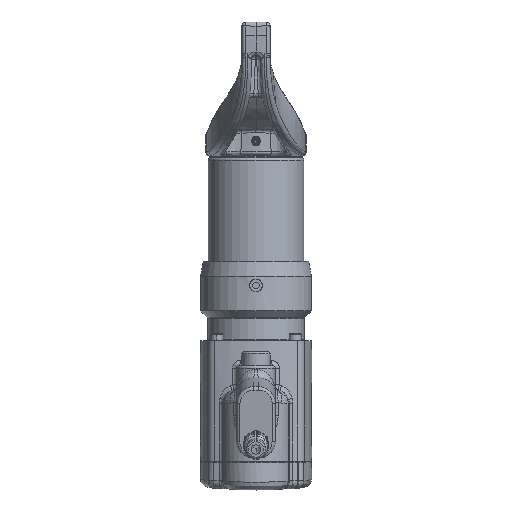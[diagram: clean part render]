
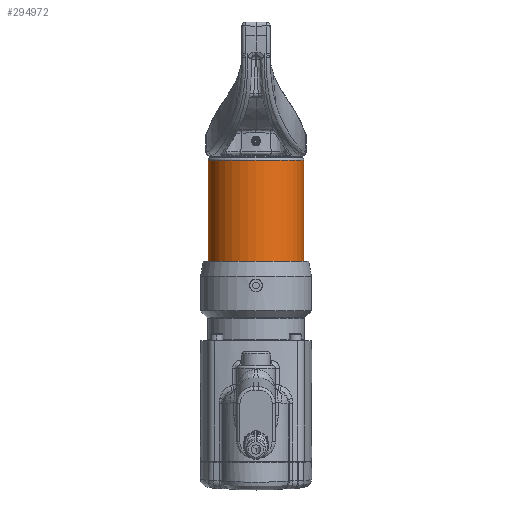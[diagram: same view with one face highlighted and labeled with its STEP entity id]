
A CAD part, front view. The second image highlights one B-rep face of the part: STEP entity #294972.
In plain terms, the highlighted cylindrical face has radius 36.195 mm (diameter 72.39 mm), a partial arc.
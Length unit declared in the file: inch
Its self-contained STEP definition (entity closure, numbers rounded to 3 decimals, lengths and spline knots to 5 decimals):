
#255819=CARTESIAN_POINT('',(0.,0.,2.54405));
#255820=DIRECTION('',(0.,0.,-1.));
#255821=DIRECTION('',(1.,0.,0.));
#255822=AXIS2_PLACEMENT_3D('',#255819,#255820,#255821);
#255829=DIRECTION('',(0.,0.,1.));
#255830=VECTOR('',#255829,3.0799);
#255831=CARTESIAN_POINT('',(-1.425,0.,2.54405));
#255832=LINE('',#255831,#255830);
#255833=DIRECTION('',(0.,0.,-1.));
#255834=VECTOR('',#255833,3.0799);
#255835=CARTESIAN_POINT('',(1.425,0.,5.62395));
#255836=LINE('',#255835,#255834);
#255857=CARTESIAN_POINT('',(0.,0.,5.62395));
#255858=DIRECTION('',(0.,0.,-1.));
#255859=DIRECTION('',(1.,0.,0.));
#255860=AXIS2_PLACEMENT_3D('',#255857,#255858,#255859);
#280814=CARTESIAN_POINT('',(1.425,0.,5.62395));
#280815=CARTESIAN_POINT('',(-1.425,0.,5.62395));
#280816=VERTEX_POINT('',#280814);
#280817=VERTEX_POINT('',#280815);
#280818=CARTESIAN_POINT('',(-1.425,0.,2.54405));
#280819=CARTESIAN_POINT('',(1.425,0.,2.54405));
#280820=VERTEX_POINT('',#280818);
#280821=VERTEX_POINT('',#280819);
#294958=CARTESIAN_POINT('',(0.,0.,2.54405));
#294959=DIRECTION('',(0.,0.,1.));
#294960=DIRECTION('',(1.,0.,0.));
#294961=AXIS2_PLACEMENT_3D('',#294958,#294959,#294960);
#294962=CYLINDRICAL_SURFACE('',#294961,1.425);
#294964=ORIENTED_EDGE('',*,*,#294963,.T.);
#294966=ORIENTED_EDGE('',*,*,#294965,.F.);
#294968=ORIENTED_EDGE('',*,*,#294967,.T.);
#294969=ORIENTED_EDGE('',*,*,#294946,.T.);
#294970=EDGE_LOOP('',(#294964,#294966,#294968,#294969));
#294971=FACE_OUTER_BOUND('',#294970,.F.);
#294972=ADVANCED_FACE('',(#294971),#294962,.T.);
#255823=CIRCLE('',#255822,1.425);
#255861=CIRCLE('',#255860,1.425);
#294946=EDGE_CURVE('',#280821,#280820,#255823,.T.);
#294963=EDGE_CURVE('',#280820,#280817,#255832,.T.);
#294965=EDGE_CURVE('',#280816,#280817,#255861,.T.);
#294967=EDGE_CURVE('',#280816,#280821,#255836,.T.);
